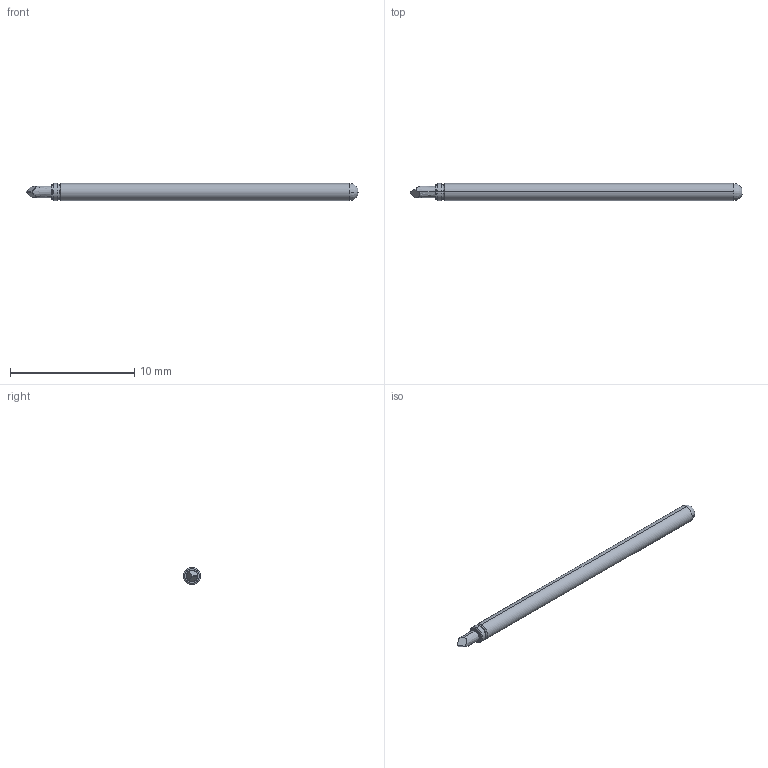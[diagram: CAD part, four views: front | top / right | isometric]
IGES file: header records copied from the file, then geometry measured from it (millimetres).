
Start section: SolidWorks IGES file using analytic representation for surfaces
Global section: file name: Z:\probe solid model mockups\Solidworks models\POGO-25 IGS files\POGO-25T30 Full.IGS; native system: SolidWorks 2006 by SolidWorks Corporation; preprocessor: SolidWorks 2006 by SolidWorks Corporation; author: tsakatani; date: 071214.093354; units: inch
Bounding box: 26.67 x 1.37 x 1.37 mm (x, y, z)
Surface area: 112.4 mm2 (no closed solid volume)
Topology: 0 solids, 0 shells, 21 faces, 160 edges, 160 vertices
Faces by surface type: revolution 12, bspline 9
